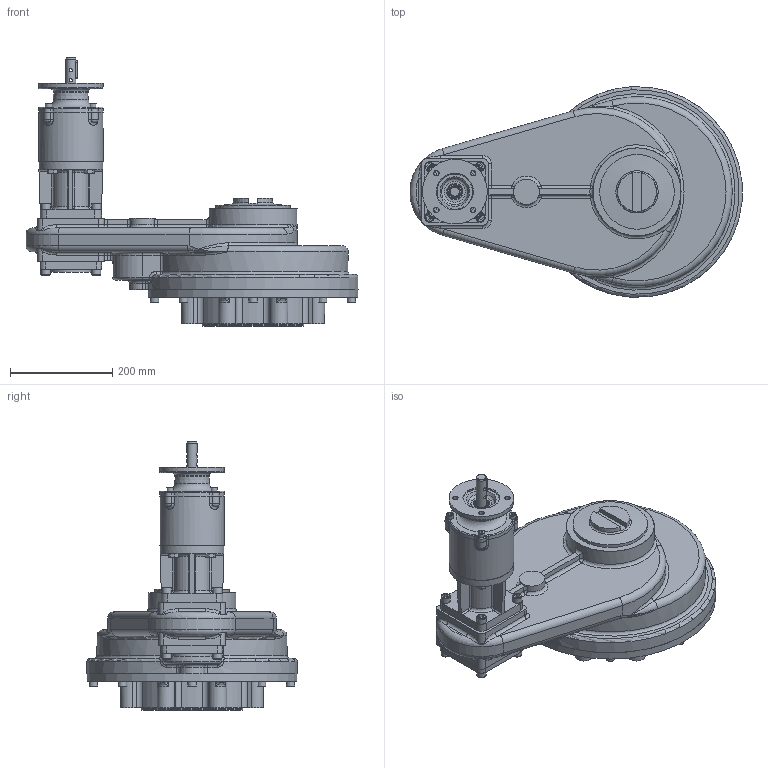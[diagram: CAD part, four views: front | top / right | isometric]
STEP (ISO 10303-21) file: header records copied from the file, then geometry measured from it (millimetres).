
FILE_DESCRIPTION( ( 'Unknown' ), '1' );
FILE_NAME( 'X:/CURRENT/PUB/Hos/HOS 2015/HOS-MPR/HOS-MPR-Models/PUB-HOS10MPR6-88-F25.stp', 'Unknown', ( 'Unknown' ), ( 'Unknown' ), 'PSStep 16.0.42', 'Unknown', ' ' );
FILE_SCHEMA( ( 'AUTOMOTIVE_DESIGN { 1 0 10303 214 1 1 1 1 }' ) );
Length unit declared in the file: millimetre
Products named in the file (41): 1; 2; 3; 4; 5; 6; 7; 8; 9; 10; 11; 12; trelleborg_trea00200-n7mm_b5c67wtxxcj74kwnwb2box077_01; 13; 14; 15; 16; 17; 18; 19; 20; 21; 22; 23; 24; 25; 26; 27; 28; 29; 30; 31; 32; 33; 34; 35; 36; 37; 38; 39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
Bounding box: 649.02 x 411.38 x 524.61 mm (x, y, z)
Surface area: 954564.5 mm2 (no closed solid volume)
Topology: 0 solids, 938 shells, 938 faces, 4372 edges, 4198 vertices
Faces by surface type: plane 302, cylinder 255, bspline 142, torus 133, cone 74, sphere 32
Full cylindrical faces by diameter (mm): 6 x2, 10.5 x4, 13.27 x4, 13.376 x8, 16 x8, 18 x8, 20 x1, 30 x2, 50 x1, 70 x1, 80 x1, 110 x1, 125 x1, 126 x1, 146.05 x1, 172 x1, 200 x1, 220 x1, 412 x1
Entity records: 98180 total; most frequent: CARTESIAN_POINT 58656, DIRECTION 6769, VERTEX_POINT 4150, ORIENTED_EDGE 4142, EDGE_CURVE 4142, AXIS2_PLACEMENT_3D 2576, CIRCLE 1739, LINE 1617
